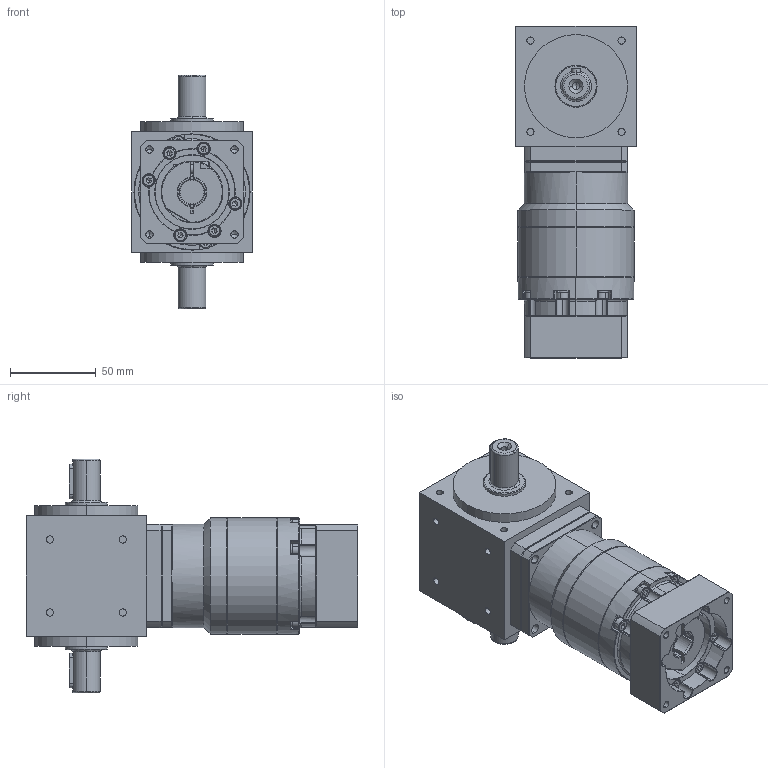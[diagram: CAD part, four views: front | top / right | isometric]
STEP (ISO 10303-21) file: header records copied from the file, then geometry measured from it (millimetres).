
FILE_DESCRIPTION (( 'STEP AP203' ), '1' );
FILE_NAME ('AAW070AS-L2-2P 14-50-70-M5.STEP', '2024-12-23T08:28:21', ( '' ), ( '' ), 'SwSTEP 2.0', 'SolidWorks 2021', '' );
FILE_SCHEMA (( 'CONFIG_CONTROL_DESIGN' ));
Length unit declared in the file: millimetre
Products named in the file (3): AAW070AS-L2-2P 14-50-70-M5; AAW070AS-L1-2P 14-50-70-M5; VRB-060-L2-S2-P1 14-50-70-M5
Assembly tree (2 placements, depth 2):
  AAW070AS-L2-2P 14-50-70-M5
    AAW070AS-L1-2P 14-50-70-M5
    VRB-060-L2-S2-P1 14-50-70-M5
Bounding box: 70 x 193 x 136 mm (x, y, z)
Volume: 682324.9 mm3; surface area: 114784.8 mm2
Topology: 33 solids, 33 shells, 1080 faces, 2621 edges, 1631 vertices
Faces by surface type: plane 420, cylinder 382, cone 204, torus 50, bspline 24
Entity records: 33004 total; most frequent: CARTESIAN_POINT 7260, DIRECTION 5632, ORIENTED_EDGE 5138, EDGE_CURVE 2569, AXIS2_PLACEMENT_3D 2252, VERTEX_POINT 1631, EDGE_LOOP 1200, CIRCLE 1191
